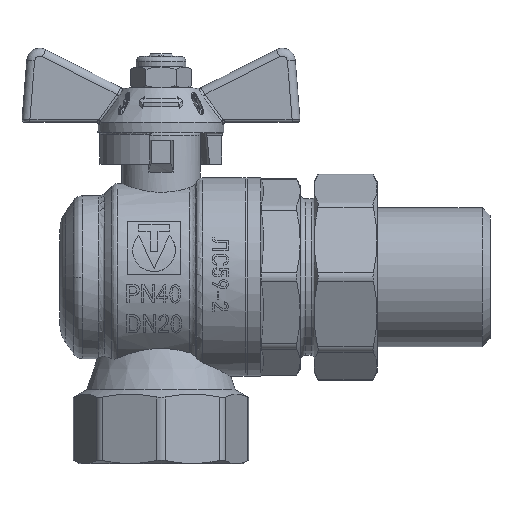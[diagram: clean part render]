
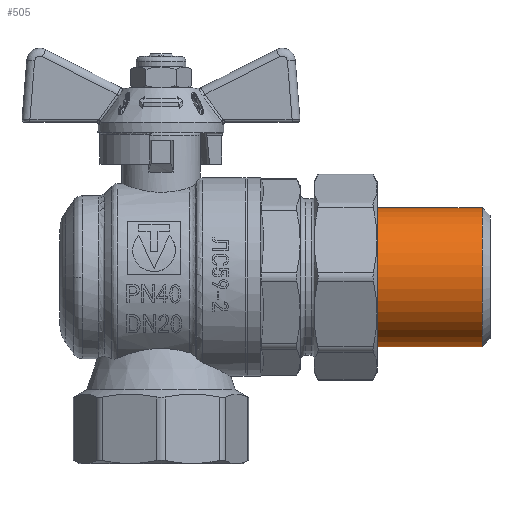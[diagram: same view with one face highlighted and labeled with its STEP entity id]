
A CAD part, top view. The second image highlights one B-rep face of the part: STEP entity #505.
In plain terms, the highlighted cylindrical face has radius 13.22 mm (diameter 26.441 mm), a full revolution.
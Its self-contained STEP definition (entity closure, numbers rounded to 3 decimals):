
#505=ADVANCED_FACE('',(#5262,#5264),#5266,.T.);
#5262=FACE_OUTER_BOUND('',#5263,.T.);
#5263=EDGE_LOOP('',(#20245));
#5264=FACE_OUTER_BOUND('',#5265,.T.);
#5265=EDGE_LOOP('',(#20246));
#5266=CYLINDRICAL_SURFACE('',#5267,13.221);
#5267=AXIS2_PLACEMENT_3D('',#5268,#5269,#5270);
#5268=CARTESIAN_POINT('',(31.623,0.,0.));
#5269=DIRECTION('',(1.,0.,0.));
#5270=DIRECTION('',(0.,0.,-1.));
#20245=ORIENTED_EDGE('',*,*,#29258,.F.);
#20246=ORIENTED_EDGE('',*,*,#30309,.F.);
#29258=EDGE_CURVE('',#36050,#36050,#36051,.T.);
#30309=EDGE_CURVE('',#37943,#37943,#37944,.F.);
#36050=VERTEX_POINT('',#51621);
#36051=CIRCLE('',#51622,13.221);
#37943=VERTEX_POINT('',#56679);
#37944=CIRCLE('',#56680,13.221);
#51621=CARTESIAN_POINT('',(61.123,0.,-13.221));
#51622=AXIS2_PLACEMENT_3D('',#51623,#51624,#51625);
#51623=CARTESIAN_POINT('',(61.123,0.,0.));
#51624=DIRECTION('',(1.,0.,0.));
#51625=DIRECTION('',(0.,0.,-1.));
#56679=CARTESIAN_POINT('',(39.123,0.,-13.221));
#56680=AXIS2_PLACEMENT_3D('',#56681,#56682,#56683);
#56681=CARTESIAN_POINT('',(39.123,0.,0.));
#56682=DIRECTION('',(1.,0.,0.));
#56683=DIRECTION('',(0.,0.,-1.));
